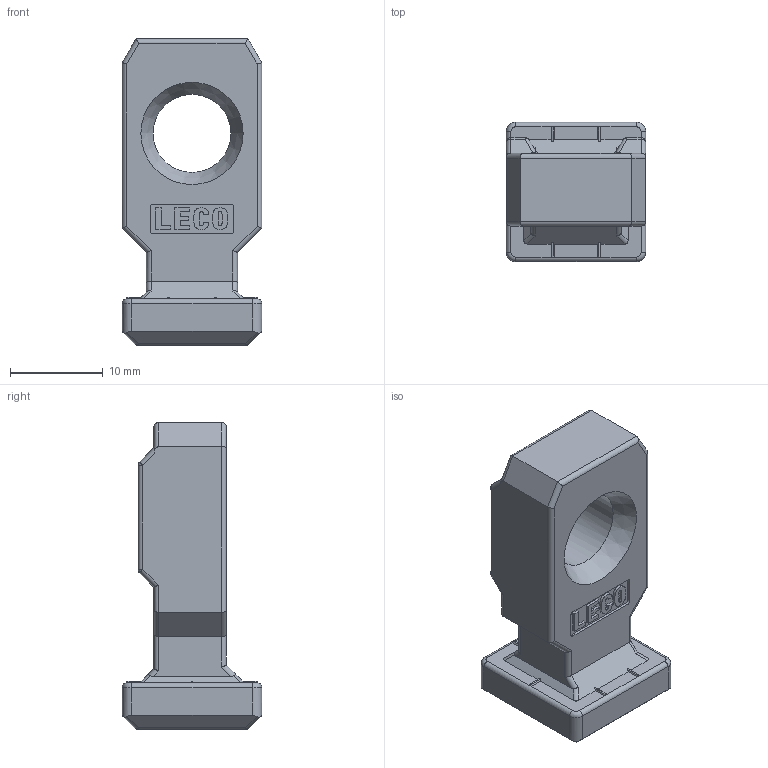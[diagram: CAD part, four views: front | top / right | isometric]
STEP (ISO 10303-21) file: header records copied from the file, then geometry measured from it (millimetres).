
FILE_DESCRIPTION(('STEP AP214'),'1');
FILE_NAME('TL4E.stp','2021-02-04T05:16:51',(' '),(' '),'Spatial InterOp 3D',' ',' ');
FILE_SCHEMA(('automotive_design'));
Length unit declared in the file: millimetre
Products named in the file (1): TL4E
Bounding box: 15 x 15 x 33 mm (x, y, z)
Volume: 3718.3 mm3; surface area: 2030.4 mm2
Topology: 1 solids, 1 shells, 227 faces, 576 edges, 348 vertices
Faces by surface type: cylinder 105, plane 87, bspline 16, sphere 12, torus 6, cone 1
Full cylindrical faces by diameter (mm): 8.4 x1
Entity records: 9879 total; most frequent: CARTESIAN_POINT 2635, DIRECTION 1142, ORIENTED_EDGE 1132, EDGE_CURVE 566, AXIS2_PLACEMENT_3D 410, VERTEX_POINT 348, LINE 322, VECTOR 322
